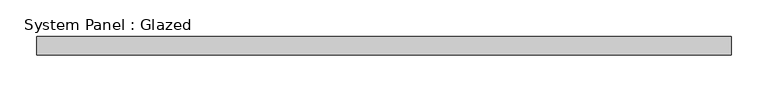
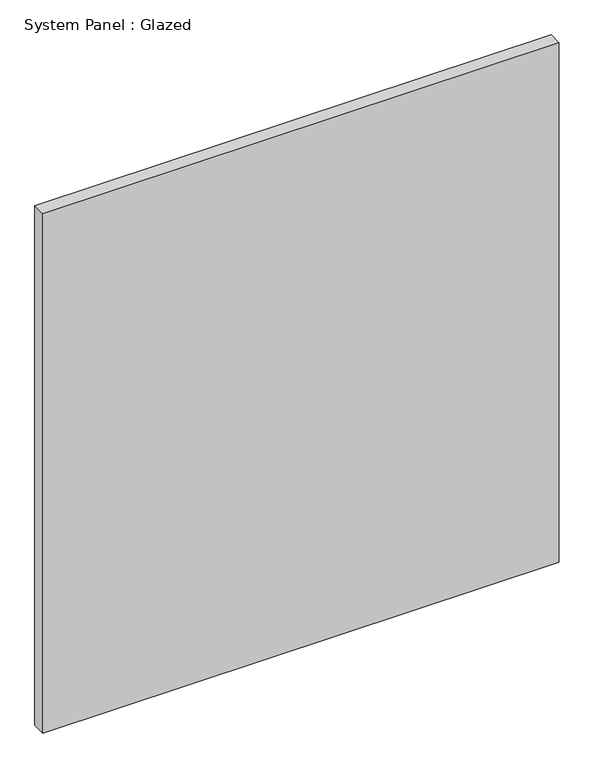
"""IFC4 building model written with IfcOpenShell, lengths in millimetres: plate geometry, System Panel : Glazed."""

from ifc_helpers import new_model, si_unit, origin, origin_with_axes, place, context, project, spatial, polyline, outline, extrude, source, transform, mapped, element, save


def system_panel_glazed_75f56514(model_context):
    return source(origin(), model_context, "Body", "SweptSolid", [
        extrude(outline(polyline([(470.5450996, 24.5), (-470.5450996, 24.5), (-470.5450996, 49.5), (470.5450996, 49.5), (470.5450996, 24.5)])), origin_with_axes(), (0.0, 0.0, 1.0), 1000.0),
    ])


if __name__ == "__main__":
    model = new_model("IFC4")
    model_context = context("Model", 3, world=origin())
    ifc_project = project(units=[si_unit("LENGTHUNIT", "METRE", prefix="MILLI")], contexts=[model_context])
    site = spatial("IfcSite", under=ifc_project)
    building = spatial("IfcBuilding", under=site)
    placement = place(None, origin())
    system_panel_glazed_shape = system_panel_glazed_75f56514(model_context)
    element("IfcPlate", 1, ObjectType="System Panel : Glazed", at=placement, inside=building, context=model_context, shape_type="MappedRepresentation", body=[
        mapped(system_panel_glazed_shape, transform((0.0, 0.0, 0.0), x_axis=(1.0, 0.0, 0.0), y_axis=(0.0, 1.0, 0.0), z_axis=(0.0, 0.0, 1.0))),
    ])
    save(model, "model.ifc")
